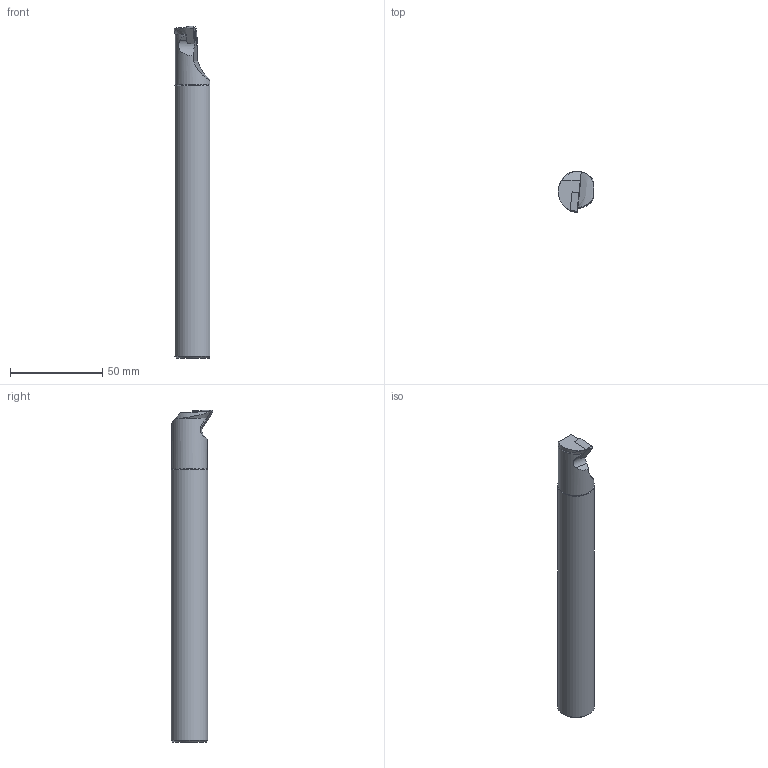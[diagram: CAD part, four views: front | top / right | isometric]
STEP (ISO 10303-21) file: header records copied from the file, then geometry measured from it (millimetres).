
FILE_DESCRIPTION(/* description */ (''),/* implementation_level */ '2;1');
FILE_NAME(/* name */ 'A20Q-SDUCR-11-HAAS.stp',/* time_stamp */ '2021-09-29T09:45:42+09:00',/* author */ (''),/* organization */ (''),/* preprocessor_version */ 'ST-DEVELOPER v11',/* originating_system */ 'SIEMENS UGS NX 6.0',/* authorisation */ '');
FILE_SCHEMA (('CONFIG_CONTROL_DESIGN'));
Length unit declared in the file: millimetre
Products named in the file (1): userA9FD65m8
Bounding box: 19.28 x 22.62 x 179.96 mm (x, y, z)
Volume: 48871 mm3; surface area: 14139.5 mm2
Topology: 2 solids, 2 shells, 26 faces, 61 edges, 40 vertices
Faces by surface type: plane 13, cylinder 6, cone 5, bspline 1, extrusion 1
Full cylindrical faces by diameter (mm): 5 x1, 6 x1
Entity records: 889 total; most frequent: CARTESIAN_POINT 226, ORIENTED_EDGE 116, DIRECTION 114, EDGE_CURVE 58, AXIS2_PLACEMENT_3D 43, VERTEX_POINT 39, EDGE_LOOP 31, VECTOR 28
